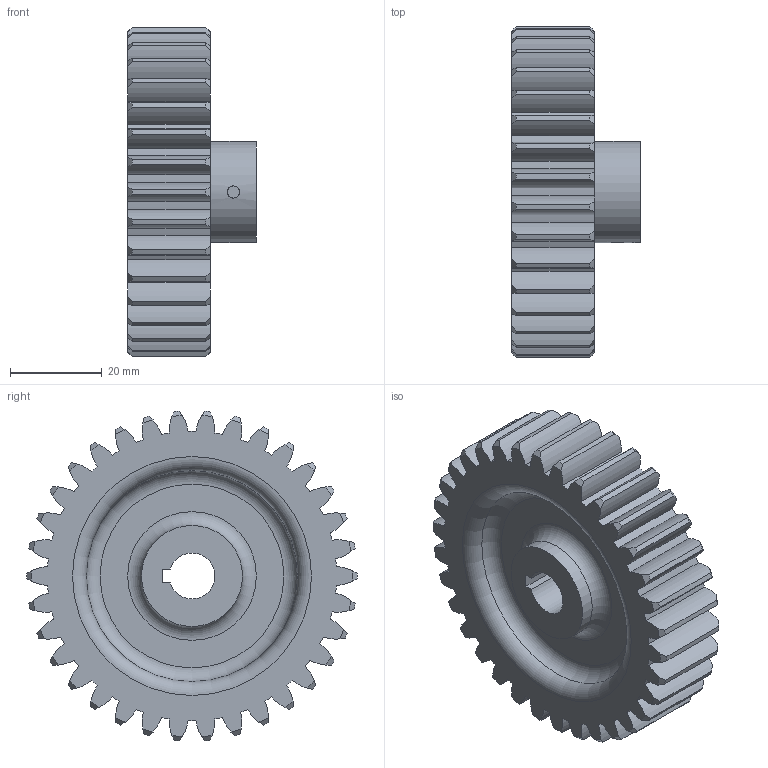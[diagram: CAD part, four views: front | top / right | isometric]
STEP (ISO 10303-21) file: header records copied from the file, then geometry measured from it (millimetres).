
FILE_DESCRIPTION(/* description */ (''),/* implementation_level */ '2;1');
FILE_NAME(/* name */ 'C:\Users\학생용.NET-PC\Desktop\정준영\최종제출과제\기캐마 벨트풀리.stp',/* time_stamp */ '2020-07-18T11:23:32+09:00',/* author */ ('학생용'),/* organization */ (''),/* preprocessor_version */ 'ST-DEVELOPER v15.2',/* originating_system */ 'Autodesk Inventor 2014',/* authorisation */ '');
FILE_SCHEMA (('AUTOMOTIVE_DESIGN { 1 0 10303 214 3 1 1 }'));
Length unit declared in the file: millimetre
Products named in the file (1): 기캐마 벨트풀리
Bounding box: 28 x 72 x 71.79 mm (x, y, z)
Volume: 50869.9 mm3; surface area: 17911.2 mm2
Topology: 1 solids, 1 shells, 224 faces, 652 edges, 434 vertices
Faces by surface type: cylinder 140, cone 69, plane 9, torus 6
Full cylindrical faces by diameter (mm): 2.621 x1, 22 x2
Entity records: 7766 total; most frequent: CARTESIAN_POINT 1780, DIRECTION 1306, ORIENTED_EDGE 1284, EDGE_CURVE 642, AXIS2_PLACEMENT_3D 580, VERTEX_POINT 433, CIRCLE 355, EDGE_LOOP 241
